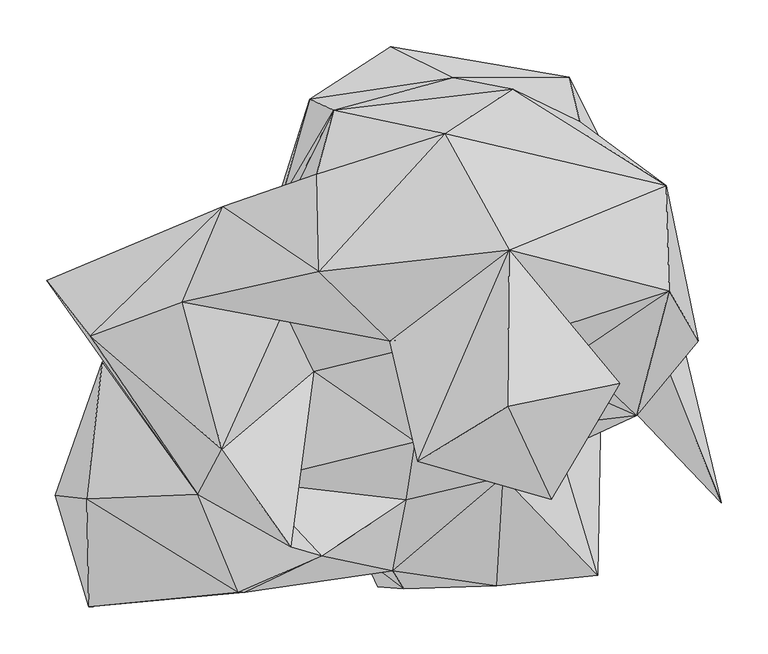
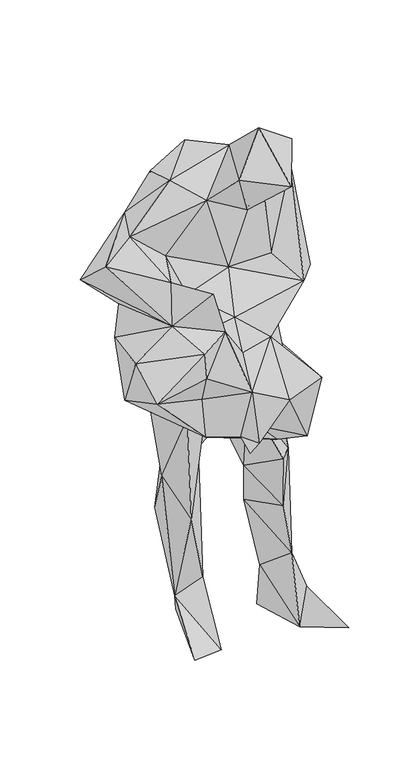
"""IFC4 building model written with IfcOpenShell, lengths in millimetres: geographic element geometry, Enscape AssetDefinition - Andy 007 Standing : Enscape AssetDefinition - Andy 007 Standing."""

from ifc_helpers import new_model, si_unit, origin, place, context, project, spatial, triangles, source, transform, mapped, element, save


def geographic_element_b9cb81d8(model_context):
    return source(origin(), model_context, "Body", "Tessellation", [
        triangles([(-291.2550056, -305.3759823, 1020.3559599), (-305.0859927, -343.7960209, 1201.165999), (-465.8330123, -359.1399971, 1097.3949348), (-139.6829892, -320.2040016, 999.8660042), (-298.6020135, -343.4900076, 1116.054043), (-215.8779931, -304.1830137, 1221.2280739), (-468.091014, -243.2580079, 1164.6310198), (-501.7470265, -239.3900027, 1050.986067), (-451.0850026, -96.0340001, 1159.4979755), (-421.751001, -67.9000024, 1246.3859859), (-354.7990193, -130.1150049, 970.944005), (-248.2320139, -46.3229992, 945.9760523), (-241.8169985, -152.7210015, 859.8550009), (-293.94999, -20.2750002, 1238.323978), (-275.4889984, 39.4079961, 881.2609617), (-276.3189986, 24.7099993, 1324.3299202), (-321.8909989, 70.5840001, 1437.384066), (-511.0800324, -8.7679996, 1322.7169373), (-464.1689787, -68.3410002, 1386.3079685), (-365.4310012, -31.8840004, 1432.1779884), (-220.8389912, 105.7939967, 1521.0099209), (-142.9200009, -73.8509973, 1503.4220409), (-348.817008, -238.6389948, 1247.6619255), (-323.1840159, -190.3169988, 1356.6779457), (-248.8059978, -294.6839932, 1354.1560066), (-224.4509982, -106.3589967, 1232.4220127), (-255.726015, -40.9680026, 1333.6430145), (-115.4630013, -182.0580008, 1161.6259706), (-69.8200024, -68.6969969, 1247.8779007), (122.5360071, -153.4140006, 1184.6350313), (-124.8879983, -244.406993, 1082.6980122), (-290.1070197, -224.7180058, 1171.4049522), (-27.7660014, -336.4439987, 945.2500065), (-127.4459999, -339.9019999, 834.1259754), (1.073, -217.5710039, 728.9289808), (-275.8289849, -299.6909914, 881.8169598), (-168.9040071, -308.5919924, 852.2460176), (-94.0919947, -275.7259934, 844.1929482), (-155.6159919, -337.5190058, 808.2979734), (-20.6950009, -219.4609866, 1085.6319901), (80.8129997, -325.0429868, 976.9599895), (79.6760051, -52.5710008, 843.1430122), (84.9149931, -86.1810041, 951.4949741), (58.0229981, -284.4639956, 761.6929693), (37.9090006, -182.7529983, 1005.582007), (72.9169973, -65.2820027, 1095.6589943), (45.8200003, -36.1539978, 1034.2099834), (188.6869929, -73.689997, 1169.4720034), (109.6510014, 22.9800018, 1201.6140095), (157.1100141, -19.739, 1491.1040428), (154.1750007, 93.2250055, 1459.0750385), (54.5310011, -89.2990006, 1264.1910038), (-51.925001, -140.6210042, 1478.7210777), (44.3279992, -56.8349983, 1510.5480595), (3.3629999, -59.4310018, 1428.8770271), (-112.4469972, -203.2799975, 1638.488942), (30.7580017, -243.787009, 1591.471027), (103.9839963, -119.2409956, 1653.0849987), (-14.3769999, 23.9680001, 1586.5190037), (-16.1479992, -144.1929973, 1746.7039936), (-83.8190026, 148.8769956, 1552.5670063), (-218.7079984, 0.687, 1551.9089069), (-202.9799977, 174.4409875, 1395.5649616), (-10.4189998, 196.9530036, 1350.8030136), (-74.3409974, 209.108003, 1085.0100803), (-228.7610003, 186.2830154, 1045.5239731), (49.9449983, 209.7969871, 1013.0350405), (-188.9290021, 200.8799987, 850.7469812), (-259.2309973, 78.9550008, 1053.8150368), (19.993999, 188.6399936, 815.6199829), (-141.7449999, 242.6110089, 1007.5919861), (61.1429976, 162.2719992, 1179.769994), (104.7449964, 100.4419978, 1030.6760422), (136.9869964, 46.6459991, 791.1090517), (92.4850071, 58.6839998, 570.8429907), (79.1899974, 16.6510004, 133.6400077), (133.9669954, -66.0210019, 206.1720085), (51.915999, 57.0879989, 340.3929946), (113.3970028, -55.7820012, 366.1269979), (11.8640004, -12.1239999, 512.523004), (146.382008, -26.0170007, 532.4930059), (11.1729997, -34.4649998, 752.9289694), (97.8960049, -81.7680013, 547.3060189), (-99.6080007, 4.8219997, 746.8209846), (-155.4290121, -10.8289993, 384.7879955), (-230.5949909, 24.480001, 539.6509629), (-186.8349984, -42.6950002, 758.9790361), (-98.5220023, 23.5520008, 152.2040091), (-176.5680016, 111.3340019, 570.806038), (-203.468994, 109.1119991, 371.1720025), (-102.3579964, 43.1229992, 580.6360339), (-111.4910054, 111.6570018, 144.2479903), (-131.5510001, 118.0570018, -2.2410001), (-226.3779881, -153.3910006, 21.0229991), (-80.8530045, 43.7420021, 13.4929991), (-138.3350064, -147.2730055, 21.1400001), (-180.114006, 40.1129994, 105.7660006), (-20.1139998, 57.3170002, 633.2250114), (-114.0019986, 126.8019985, 729.8159906), (114.4929933, -143.7749996, 7.9140002), (213.3359971, -247.3190064, 33.0579999), (157.6219923, -109.0060008, 110.5939944), (144.7270036, 24.8909998, 3.245), (152.0860021, 7.453, 117.3750031), (69.95, 15.2240003, 5.7189999)], [[100, 101, 102], [101, 100, 103], [103, 100, 105], [103, 105, 76], [100, 76, 105], [103, 76, 104], [104, 101, 103], [101, 104, 102], [77, 102, 104], [100, 102, 77], [76, 100, 77], [77, 104, 81], [70, 98, 99], [99, 68, 70], [98, 91, 99], [97, 96, 88], [97, 94, 96], [96, 95, 88], [95, 96, 93], [96, 94, 93], [94, 97, 93], [91, 88, 92], [92, 88, 95], [92, 95, 93], [92, 93, 97], [92, 97, 90], [91, 92, 89], [89, 92, 90], [89, 68, 99], [91, 89, 99], [89, 15, 68], [89, 86, 15], [90, 97, 86], [86, 89, 90], [97, 85, 86], [97, 88, 85], [91, 85, 88], [86, 85, 87], [86, 87, 15], [84, 91, 98], [84, 85, 91], [84, 87, 85], [82, 81, 42], [84, 98, 82], [82, 13, 87], [84, 82, 87], [82, 83, 81], [81, 83, 79], [79, 77, 81], [80, 83, 82], [98, 80, 82], [80, 98, 70], [80, 79, 83], [78, 77, 79], [104, 76, 78], [78, 79, 80], [76, 77, 78], [75, 81, 104], [75, 80, 70], [75, 78, 80], [104, 78, 75], [42, 81, 74], [74, 81, 75], [74, 75, 70], [74, 70, 73], [72, 73, 67], [73, 70, 67], [70, 68, 71], [67, 70, 71], [66, 15, 69], [71, 68, 66], [15, 66, 68], [65, 72, 67], [67, 71, 65], [71, 66, 65], [72, 65, 64], [65, 66, 63], [63, 64, 65], [16, 63, 69], [69, 63, 66], [64, 63, 61], [16, 21, 63], [63, 21, 61], [62, 61, 21], [62, 59, 61], [62, 22, 59], [59, 56, 60], [22, 56, 59], [56, 57, 60], [60, 57, 58], [58, 59, 60], [57, 53, 58], [53, 57, 56], [53, 56, 22], [22, 55, 53], [58, 54, 59], [58, 53, 54], [53, 55, 54], [55, 52, 54], [52, 50, 54], [54, 50, 59], [51, 72, 64], [61, 59, 51], [59, 50, 51], [51, 64, 61], [49, 73, 72], [49, 72, 51], [48, 49, 51], [50, 48, 51], [30, 48, 50], [30, 50, 52], [49, 48, 46], [49, 46, 73], [30, 46, 48], [73, 47, 74], [46, 47, 73], [47, 42, 74], [43, 42, 47], [45, 43, 47], [46, 45, 47], [30, 40, 46], [46, 40, 45], [41, 43, 45], [41, 45, 40], [43, 41, 44], [43, 44, 42], [40, 33, 41], [44, 41, 33], [34, 39, 38], [33, 38, 44], [34, 38, 33], [44, 38, 35], [82, 35, 13], [42, 35, 82], [44, 35, 42], [35, 36, 13], [35, 38, 37], [38, 39, 37], [37, 39, 34], [35, 37, 36], [4, 33, 40], [4, 37, 34], [34, 33, 4], [37, 4, 36], [4, 40, 31], [4, 31, 6], [6, 31, 32], [28, 31, 40], [28, 32, 31], [28, 40, 30], [52, 29, 30], [52, 55, 29], [22, 29, 55], [28, 30, 29], [27, 29, 22], [32, 28, 26], [27, 26, 29], [28, 29, 26], [6, 32, 25], [25, 32, 26], [25, 23, 6], [23, 25, 24], [24, 26, 27], [25, 26, 24], [62, 20, 22], [20, 27, 22], [24, 27, 20], [21, 16, 17], [17, 20, 62], [62, 21, 17], [17, 19, 20], [19, 24, 20], [23, 24, 19], [16, 18, 17], [17, 18, 19], [23, 19, 18], [16, 10, 18], [10, 23, 18], [16, 14, 10], [15, 12, 69], [12, 14, 16], [12, 15, 87], [87, 13, 12], [12, 16, 69], [12, 13, 11], [14, 12, 9], [11, 9, 12], [9, 23, 10], [14, 9, 10], [11, 8, 9], [13, 8, 11], [13, 36, 8], [8, 7, 9], [7, 23, 9], [23, 2, 6], [7, 2, 23], [2, 5, 6], [5, 4, 6], [1, 4, 5], [36, 4, 1], [8, 36, 3], [7, 3, 2], [8, 3, 7], [2, 3, 5], [3, 36, 1], [3, 1, 5]]),
    ])


if __name__ == "__main__":
    model = new_model("IFC4")
    model_context = context("Model", 3, world=origin())
    ifc_project = project(units=[si_unit("LENGTHUNIT", "METRE", prefix="MILLI")], contexts=[model_context])
    site = spatial("IfcSite", under=ifc_project)
    building = spatial("IfcBuilding", under=site)
    placement = place(None, origin())
    geographic_element_shape = geographic_element_b9cb81d8(model_context)
    element("IfcGeographicElement", 1, ObjectType="Enscape AssetDefinition - Andy 007 Standing : Enscape AssetDefinition - Andy 007 Standing", at=placement, inside=building, context=model_context, shape_type="MappedRepresentation", body=[
        mapped(geographic_element_shape, transform((0.0, 0.0, 0.0), x_axis=(1.0, 0.0, 0.0), y_axis=(0.0, 1.0, 0.0), z_axis=(0.0, 0.0, 1.0))),
    ])
    save(model, "model.ifc")
